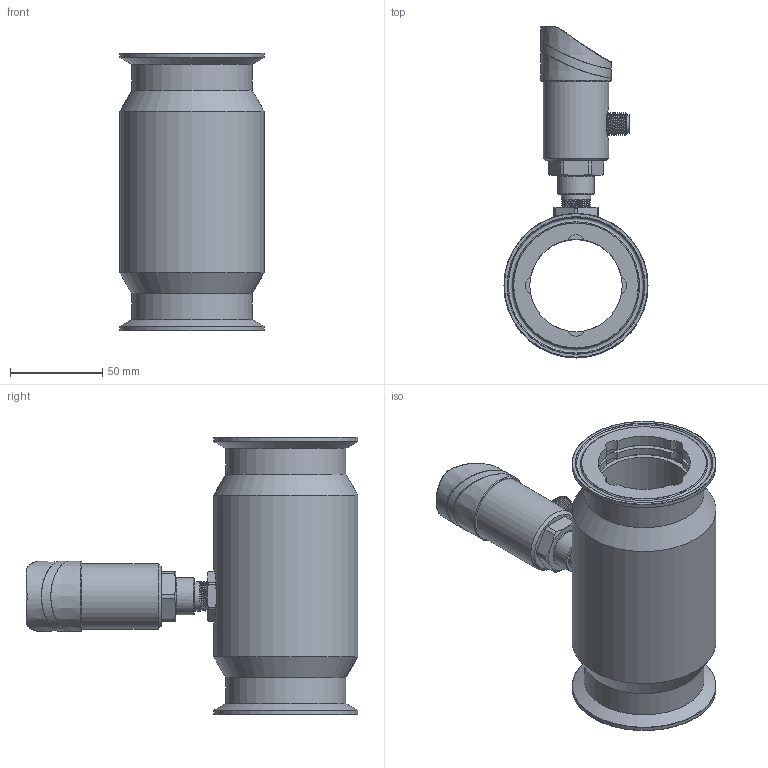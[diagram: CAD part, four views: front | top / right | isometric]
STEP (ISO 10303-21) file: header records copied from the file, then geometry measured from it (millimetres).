
FILE_DESCRIPTION( (''), '2;1');
FILE_NAME( 'QTKE_DN50_tri-clamp.step', '2024-10-15T08:39:48+08:00', (''), (''), '', '', '');
FILE_SCHEMA (('AUTOMOTIVE_DESIGN { 1 0 10303 214 3 1 1 1 }'));
Length unit declared in the file: millimetre
Products named in the file (1): QTKE DN50_tri-clamp
Bounding box: 78 x 179.5 x 150 mm (x, y, z)
Volume: 415903.9 mm3; surface area: 97545.4 mm2
Topology: 5 solids, 6 shells, 791 faces, 2038 edges, 1320 vertices
Faces by surface type: plane 291, cylinder 169, extrusion 141, cone 79, bspline 58, torus 42, sphere 11
Full cylindrical faces by diameter (mm): 1.689 x1, 2.7 x3, 12 x1, 15.9 x1, 16.5 x1, 17.581 x1, 20 x1, 23 x3, 26 x5, 35.5 x1, 37.001 x1, 50 x1, 55 x4, 65 x2, 78 x3
Entity records: 35176 total; most frequent: CARTESIAN_POINT 15648, ORIENTED_EDGE 3840, DIRECTION 3225, EDGE_CURVE 1920, VERTEX_POINT 1281, AXIS2_PLACEMENT_3D 1121, VECTOR 983, EDGE_LOOP 937
